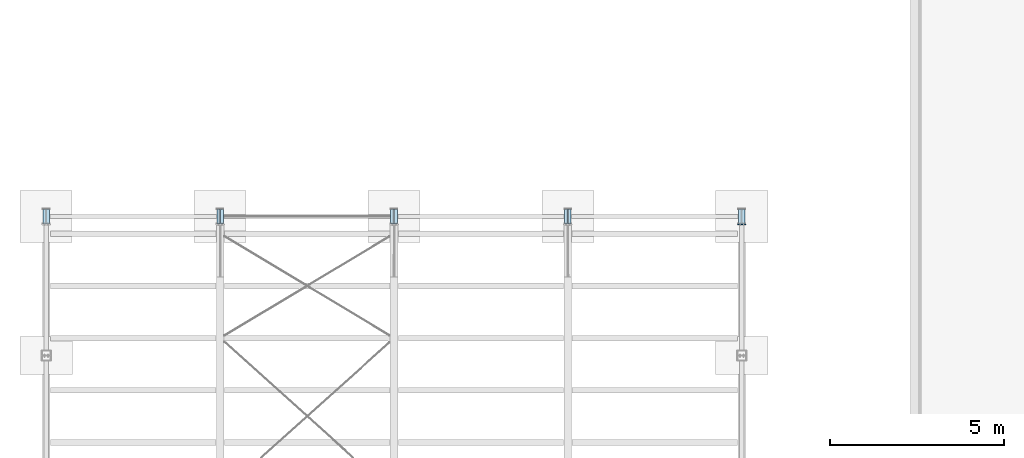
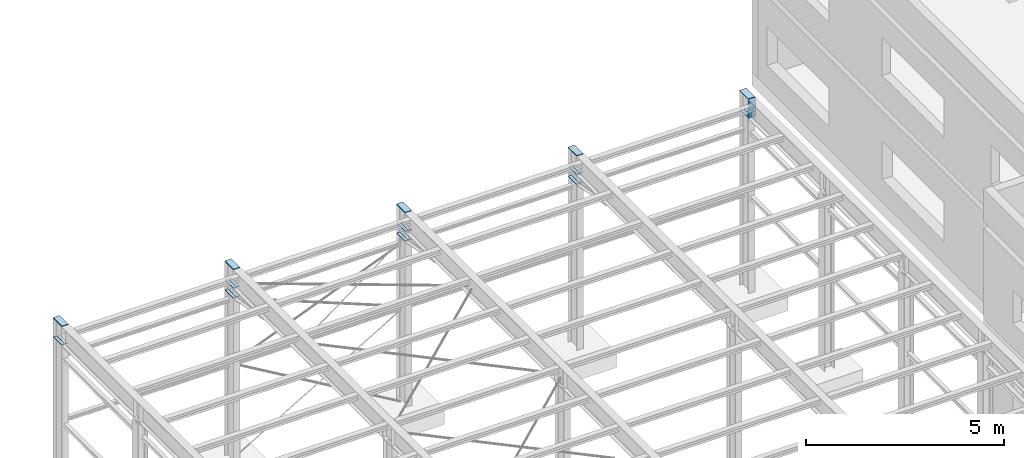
# Not in any storey, part 11 of 50: 22 plates, 38 openings.
"""IFC4 model written with IfcOpenShell, lengths in metres."""

from ifc_helpers import new_model, entity, si_unit, converted_unit, derived_unit, direction, frame, origin, origin_with_axes, origin_2d_with_axis, place, context, project, spatial, polyline, circle, outline, extrude, material, layer, layer_set, element, save


model = new_model("IFC4")

# Units and contexts
model_context = context("Model", 3, precision=1e-05, world=origin(), true_north=direction((6.123233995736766e-17, 1.0)))
ifc_project = project(units=[si_unit("LENGTHUNIT", "METRE"), si_unit("AREAUNIT", "SQUARE_METRE"), converted_unit("PLANEANGLEUNIT", "DEGREE", entity("IfcPlaneAngleMeasure", 0.017453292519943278), si_unit("PLANEANGLEUNIT", "RADIAN"), dimensions=[0, 0, 0, 0, 0, 0, 0]), si_unit("VOLUMEUNIT", "CUBIC_METRE"), derived_unit("THERMALTRANSMITTANCEUNIT", [(si_unit("MASSUNIT", "GRAM", prefix="KILO"), 1), (si_unit("THERMODYNAMICTEMPERATUREUNIT", "KELVIN"), -1), (si_unit("TIMEUNIT", "SECOND"), -3)])], contexts=[model_context])

# Site
site_placement = place(None, origin())
site = spatial("IfcSite", under=ifc_project, at=site_placement, Name="Default", CompositionType="ELEMENT")

# Plate
ifc_material = material(Name="Dachdeckung - Blechdach")
ifc_layer_1 = layer(ifc_material, 20.0)
ifc_layer_set_1 = layer_set([ifc_layer_1], Name="Dachdeckung - Blechdach")
plate_1_placement = place(site_placement, frame((13.095144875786, 17.70976753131, 5.98), z_axis=(0.0, 0.0, 1.0), x_axis=(1.0, 0.0, 0.0)))
element("IfcPlate", 1, at=plate_1_placement, inside=site, material=ifc_layer_set_1, Name="Coverplate", ObjectType="Coverplate", context=model_context, shape_type="SweptSolid", body=[
    extrude(outline(polyline([(0.0, 0.0), (0.19, 0.0), (0.19, 0.44), (0.0, 0.44), (0.0, 0.0)])), origin_with_axes(), (0.0, 0.0, 1.0), 0.02),
])

# Plate, openings
ifc_layer_2 = layer(ifc_material, 15.0)
ifc_layer_set_2 = layer_set([ifc_layer_2], Name="Dachdeckung - Blechdach")
plate_2_placement = place(site_placement, frame((13.284844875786, 17.72036753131, 5.415), z_axis=(0.0, 0.0, -1.0), x_axis=(-1.0, 0.0, 0.0)))
plate_2 = element("IfcPlate", 2, at=plate_2_placement, inside=site, material=ifc_layer_set_2, Name="Stiffener#2", ObjectType="Stiffener#2", context=model_context, shape_type="SweptSolid", body=[
    extrude(outline(polyline([(0.0, 0.0), (0.09, 0.0), (0.09, 0.4188), (0.0, 0.4188), (0.0, 0.0)])), origin_with_axes(), (0.0, 0.0, 1.0), 0.015),
])
opening_1_placement = place(plate_2_placement, frame((0.0, 0.0, -1e-05), z_axis=(0.0, 0.0, 1.0), x_axis=(1.0, 0.0, 0.0)))
element("IfcOpeningElement", 3, at=opening_1_placement, cuts=plate_2, ObjectType="Opening", context=model_context, shape_type="SweptSolid", body=[
    extrude(outline(polyline([(0.09, 0.4188), (0.06, 0.4188), (0.09, 0.38880000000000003), (0.09, 0.4188)])), origin(), (0.0, 0.0, 1.0), 0.01502),
])
opening_2_placement = place(plate_2_placement, frame((0.0, 0.0, -1e-05), z_axis=(0.0, 0.0, 1.0), x_axis=(1.0, 0.0, 0.0)))
element("IfcOpeningElement", 4, at=opening_2_placement, cuts=plate_2, ObjectType="Opening", context=model_context, shape_type="SweptSolid", body=[
    extrude(outline(polyline([(0.09, 0.0), (0.09, 0.03), (0.06, 0.0), (0.09, 0.0)])), origin(), (0.0, 0.0, 1.0), 0.01502),
])

plate_3_placement = place(site_placement, frame((13.185444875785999, 17.72036753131, 5.415), z_axis=(0.0, 0.0, -1.0), x_axis=(-1.0, 0.0, 0.0)))
plate_3 = element("IfcPlate", 5, at=plate_3_placement, inside=site, material=ifc_layer_set_2, Name="Stiffener#2", ObjectType="Stiffener#2", context=model_context, shape_type="SweptSolid", body=[
    extrude(outline(polyline([(0.0, 0.0), (0.09, 0.0), (0.09, 0.4188), (0.0, 0.4188), (0.0, 0.0)])), origin_with_axes(), (0.0, 0.0, 1.0), 0.015),
])
opening_3_placement = place(plate_3_placement, frame((0.0, 0.0, -1e-05), z_axis=(0.0, 0.0, 1.0), x_axis=(1.0, 0.0, 0.0)))
element("IfcOpeningElement", 6, at=opening_3_placement, cuts=plate_3, ObjectType="Opening", context=model_context, shape_type="SweptSolid", body=[
    extrude(outline(polyline([(0.0, 0.4188), (0.0, 0.38880000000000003), (0.03, 0.4188), (0.0, 0.4188)])), origin(), (0.0, 0.0, 1.0), 0.01502),
])
opening_4_placement = place(plate_3_placement, frame((0.0, 0.0, -1e-05), z_axis=(0.0, 0.0, 1.0), x_axis=(1.0, 0.0, 0.0)))
element("IfcOpeningElement", 7, at=opening_4_placement, cuts=plate_3, ObjectType="Opening", context=model_context, shape_type="SweptSolid", body=[
    extrude(outline(polyline([(0.0, 0.0), (0.03, 0.0), (0.0, 0.03), (0.0, 0.0)])), origin(), (0.0, 0.0, 1.0), 0.01502),
])

plate_4_placement = place(site_placement, frame((13.284844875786, 17.72036753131, 5.115), z_axis=(0.0, 0.0, -1.0), x_axis=(-1.0, 0.0, 0.0)))
plate_4 = element("IfcPlate", 8, at=plate_4_placement, inside=site, material=ifc_layer_set_2, Name="Stiffener#3", ObjectType="Stiffener#3", context=model_context, shape_type="SweptSolid", body=[
    extrude(outline(polyline([(0.0, 0.0), (0.09, 0.0), (0.09, 0.4188), (0.0, 0.4188), (0.0, 0.0)])), origin_with_axes(), (0.0, 0.0, 1.0), 0.015),
])
opening_5_placement = place(plate_4_placement, frame((0.0, 0.0, -1e-05), z_axis=(0.0, 0.0, 1.0), x_axis=(1.0, 0.0, 0.0)))
element("IfcOpeningElement", 9, at=opening_5_placement, cuts=plate_4, ObjectType="Opening", context=model_context, shape_type="SweptSolid", body=[
    extrude(outline(polyline([(0.09, 0.4188), (0.06, 0.4188), (0.09, 0.38880000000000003), (0.09, 0.4188)])), origin(), (0.0, 0.0, 1.0), 0.01502),
])
opening_6_placement = place(plate_4_placement, frame((0.0, 0.0, -1e-05), z_axis=(0.0, 0.0, 1.0), x_axis=(1.0, 0.0, 0.0)))
element("IfcOpeningElement", 10, at=opening_6_placement, cuts=plate_4, ObjectType="Opening", context=model_context, shape_type="SweptSolid", body=[
    extrude(outline(polyline([(0.09, 0.0), (0.09, 0.03), (0.06, 0.0), (0.09, 0.0)])), origin(), (0.0, 0.0, 1.0), 0.01502),
])

plate_5_placement = place(site_placement, frame((13.185444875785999, 17.72036753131, 5.115), z_axis=(0.0, 0.0, -1.0), x_axis=(-1.0, 0.0, 0.0)))
plate_5 = element("IfcPlate", 11, at=plate_5_placement, inside=site, material=ifc_layer_set_2, Name="Stiffener#14", ObjectType="Stiffener#14", context=model_context, shape_type="SweptSolid", body=[
    extrude(outline(polyline([(0.0, 0.0), (0.09, 0.0), (0.09, 0.4188), (0.0, 0.4188), (0.0, 0.0)])), origin_with_axes(), (0.0, 0.0, 1.0), 0.015),
])
opening_7_placement = place(plate_5_placement, frame((0.0, 0.0, -1e-05), z_axis=(0.0, 0.0, 1.0), x_axis=(1.0, 0.0, 0.0)))
element("IfcOpeningElement", 12, at=opening_7_placement, cuts=plate_5, ObjectType="Opening", context=model_context, shape_type="SweptSolid", body=[
    extrude(outline(polyline([(0.0, 0.4188), (0.0, 0.38880000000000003), (0.03, 0.4188), (0.0, 0.4188)])), origin(), (0.0, 0.0, 1.0), 0.01502),
])
opening_8_placement = place(plate_5_placement, frame((0.0, 0.0, -1e-05), z_axis=(0.0, 0.0, 1.0), x_axis=(1.0, 0.0, 0.0)))
element("IfcOpeningElement", 13, at=opening_8_placement, cuts=plate_5, ObjectType="Opening", context=model_context, shape_type="SweptSolid", body=[
    extrude(outline(polyline([(0.0, 0.0), (0.03, 0.0), (0.0, 0.03), (0.0, 0.0)])), origin(), (0.0, 0.0, 1.0), 0.01502),
])

# Plate
plate_6_placement = place(site_placement, frame((8.095144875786, 17.70976753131, 5.98), z_axis=(0.0, 0.0, 1.0), x_axis=(1.0, 0.0, 0.0)))
element("IfcPlate", 14, at=plate_6_placement, inside=site, material=ifc_layer_set_1, Name="Coverplate", ObjectType="Coverplate", context=model_context, shape_type="SweptSolid", body=[
    extrude(outline(polyline([(0.0, 0.0), (0.19, 0.0), (0.19, 0.44), (0.0, 0.44), (0.0, 0.0)])), origin_with_axes(), (0.0, 0.0, 1.0), 0.02),
])

# Plate, openings
plate_7_placement = place(site_placement, frame((8.284844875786, 17.72036753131, 5.415), z_axis=(0.0, 0.0, -1.0), x_axis=(-1.0, 0.0, 0.0)))
plate_7 = element("IfcPlate", 15, at=plate_7_placement, inside=site, material=ifc_layer_set_2, Name="Stiffener#2", ObjectType="Stiffener#2", context=model_context, shape_type="SweptSolid", body=[
    extrude(outline(polyline([(0.0, 0.0), (0.09, 0.0), (0.09, 0.4188), (0.0, 0.4188), (0.0, 0.0)])), origin_with_axes(), (0.0, 0.0, 1.0), 0.015),
])
opening_9_placement = place(plate_7_placement, frame((0.0, 0.0, -1e-05), z_axis=(0.0, 0.0, 1.0), x_axis=(1.0, 0.0, 0.0)))
element("IfcOpeningElement", 16, at=opening_9_placement, cuts=plate_7, ObjectType="Opening", context=model_context, shape_type="SweptSolid", body=[
    extrude(outline(polyline([(0.09, 0.4188), (0.06, 0.4188), (0.09, 0.38880000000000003), (0.09, 0.4188)])), origin(), (0.0, 0.0, 1.0), 0.01502),
])
opening_10_placement = place(plate_7_placement, frame((0.0, 0.0, -1e-05), z_axis=(0.0, 0.0, 1.0), x_axis=(1.0, 0.0, 0.0)))
element("IfcOpeningElement", 17, at=opening_10_placement, cuts=plate_7, ObjectType="Opening", context=model_context, shape_type="SweptSolid", body=[
    extrude(outline(polyline([(0.09, 0.0), (0.09, 0.03), (0.06, 0.0), (0.09, 0.0)])), origin(), (0.0, 0.0, 1.0), 0.01502),
])

plate_8_placement = place(site_placement, frame((8.185444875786, 17.72036753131, 5.415), z_axis=(0.0, 0.0, -1.0), x_axis=(-1.0, 0.0, 0.0)))
plate_8 = element("IfcPlate", 18, at=plate_8_placement, inside=site, material=ifc_layer_set_2, Name="Stiffener#2", ObjectType="Stiffener#2", context=model_context, shape_type="SweptSolid", body=[
    extrude(outline(polyline([(0.0, 0.0), (0.09, 0.0), (0.09, 0.4188), (0.0, 0.4188), (0.0, 0.0)])), origin_with_axes(), (0.0, 0.0, 1.0), 0.015),
])
opening_11_placement = place(plate_8_placement, frame((0.0, 0.0, -1e-05), z_axis=(0.0, 0.0, 1.0), x_axis=(1.0, 0.0, 0.0)))
element("IfcOpeningElement", 19, at=opening_11_placement, cuts=plate_8, ObjectType="Opening", context=model_context, shape_type="SweptSolid", body=[
    extrude(outline(polyline([(0.0, 0.4188), (0.0, 0.38880000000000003), (0.03, 0.4188), (0.0, 0.4188)])), origin(), (0.0, 0.0, 1.0), 0.01502),
])
opening_12_placement = place(plate_8_placement, frame((0.0, 0.0, -1e-05), z_axis=(0.0, 0.0, 1.0), x_axis=(1.0, 0.0, 0.0)))
element("IfcOpeningElement", 20, at=opening_12_placement, cuts=plate_8, ObjectType="Opening", context=model_context, shape_type="SweptSolid", body=[
    extrude(outline(polyline([(0.0, 0.0), (0.03, 0.0), (0.0, 0.03), (0.0, 0.0)])), origin(), (0.0, 0.0, 1.0), 0.01502),
])

plate_9_placement = place(site_placement, frame((8.284844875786, 17.72036753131, 5.115), z_axis=(0.0, 0.0, -1.0), x_axis=(-1.0, 0.0, 0.0)))
plate_9 = element("IfcPlate", 21, at=plate_9_placement, inside=site, material=ifc_layer_set_2, Name="Stiffener#3", ObjectType="Stiffener#3", context=model_context, shape_type="SweptSolid", body=[
    extrude(outline(polyline([(0.0, 0.0), (0.09, 0.0), (0.09, 0.4188), (0.0, 0.4188), (0.0, 0.0)])), origin_with_axes(), (0.0, 0.0, 1.0), 0.015),
])
opening_13_placement = place(plate_9_placement, frame((0.0, 0.0, -1e-05), z_axis=(0.0, 0.0, 1.0), x_axis=(1.0, 0.0, 0.0)))
element("IfcOpeningElement", 22, at=opening_13_placement, cuts=plate_9, ObjectType="Opening", context=model_context, shape_type="SweptSolid", body=[
    extrude(outline(polyline([(0.09, 0.4188), (0.06, 0.4188), (0.09, 0.38880000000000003), (0.09, 0.4188)])), origin(), (0.0, 0.0, 1.0), 0.01502),
])
opening_14_placement = place(plate_9_placement, frame((0.0, 0.0, -1e-05), z_axis=(0.0, 0.0, 1.0), x_axis=(1.0, 0.0, 0.0)))
element("IfcOpeningElement", 23, at=opening_14_placement, cuts=plate_9, ObjectType="Opening", context=model_context, shape_type="SweptSolid", body=[
    extrude(outline(polyline([(0.09, 0.0), (0.09, 0.03), (0.06, 0.0), (0.09, 0.0)])), origin(), (0.0, 0.0, 1.0), 0.01502),
])

plate_10_placement = place(site_placement, frame((8.185444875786, 17.72036753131, 5.115), z_axis=(0.0, 0.0, -1.0), x_axis=(-1.0, 0.0, 0.0)))
plate_10 = element("IfcPlate", 24, at=plate_10_placement, inside=site, material=ifc_layer_set_2, Name="Stiffener#14", ObjectType="Stiffener#14", context=model_context, shape_type="SweptSolid", body=[
    extrude(outline(polyline([(0.0, 0.0), (0.09, 0.0), (0.09, 0.4188), (0.0, 0.4188), (0.0, 0.0)])), origin_with_axes(), (0.0, 0.0, 1.0), 0.015),
])
opening_15_placement = place(plate_10_placement, frame((0.0, 0.0, -1e-05), z_axis=(0.0, 0.0, 1.0), x_axis=(1.0, 0.0, 0.0)))
element("IfcOpeningElement", 25, at=opening_15_placement, cuts=plate_10, ObjectType="Opening", context=model_context, shape_type="SweptSolid", body=[
    extrude(outline(polyline([(0.0, 0.4188), (0.0, 0.38880000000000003), (0.03, 0.4188), (0.0, 0.4188)])), origin(), (0.0, 0.0, 1.0), 0.01502),
])
opening_16_placement = place(plate_10_placement, frame((0.0, 0.0, -1e-05), z_axis=(0.0, 0.0, 1.0), x_axis=(1.0, 0.0, 0.0)))
element("IfcOpeningElement", 26, at=opening_16_placement, cuts=plate_10, ObjectType="Opening", context=model_context, shape_type="SweptSolid", body=[
    extrude(outline(polyline([(0.0, 0.0), (0.03, 0.0), (0.0, 0.03), (0.0, 0.0)])), origin(), (0.0, 0.0, 1.0), 0.01502),
])

# Plate
plate_11_placement = place(site_placement, frame((18.095144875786, 17.70976753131, 5.98), z_axis=(0.0, 0.0, 1.0), x_axis=(1.0, 0.0, 0.0)))
element("IfcPlate", 27, at=plate_11_placement, inside=site, material=ifc_layer_set_1, Name="Coverplate", ObjectType="Coverplate", context=model_context, shape_type="SweptSolid", body=[
    extrude(outline(polyline([(0.0, 0.0), (0.19, 0.0), (0.19, 0.44), (0.0, 0.44), (0.0, 0.0)])), origin_with_axes(), (0.0, 0.0, 1.0), 0.02),
])

# Plate, openings
plate_12_placement = place(site_placement, frame((18.284844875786, 17.72036753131, 5.415), z_axis=(0.0, 0.0, -1.0), x_axis=(-1.0, 0.0, 0.0)))
plate_12 = element("IfcPlate", 28, at=plate_12_placement, inside=site, material=ifc_layer_set_2, Name="Stiffener#2", ObjectType="Stiffener#2", context=model_context, shape_type="SweptSolid", body=[
    extrude(outline(polyline([(0.0, 0.0), (0.09, 0.0), (0.09, 0.4188), (0.0, 0.4188), (0.0, 0.0)])), origin_with_axes(), (0.0, 0.0, 1.0), 0.015),
])
opening_17_placement = place(plate_12_placement, frame((0.0, 0.0, -1e-05), z_axis=(0.0, 0.0, 1.0), x_axis=(1.0, 0.0, 0.0)))
element("IfcOpeningElement", 29, at=opening_17_placement, cuts=plate_12, ObjectType="Opening", context=model_context, shape_type="SweptSolid", body=[
    extrude(outline(polyline([(0.09, 0.4188), (0.06, 0.4188), (0.09, 0.38880000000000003), (0.09, 0.4188)])), origin(), (0.0, 0.0, 1.0), 0.01502),
])
opening_18_placement = place(plate_12_placement, frame((0.0, 0.0, -1e-05), z_axis=(0.0, 0.0, 1.0), x_axis=(1.0, 0.0, 0.0)))
element("IfcOpeningElement", 30, at=opening_18_placement, cuts=plate_12, ObjectType="Opening", context=model_context, shape_type="SweptSolid", body=[
    extrude(outline(polyline([(0.09, 0.0), (0.09, 0.03), (0.06, 0.0), (0.09, 0.0)])), origin(), (0.0, 0.0, 1.0), 0.01502),
])

plate_13_placement = place(site_placement, frame((18.185444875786, 17.72036753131, 5.415), z_axis=(0.0, 0.0, -1.0), x_axis=(-1.0, 0.0, 0.0)))
plate_13 = element("IfcPlate", 31, at=plate_13_placement, inside=site, material=ifc_layer_set_2, Name="Stiffener#2", ObjectType="Stiffener#2", context=model_context, shape_type="SweptSolid", body=[
    extrude(outline(polyline([(0.0, 0.0), (0.09, 0.0), (0.09, 0.4188), (0.0, 0.4188), (0.0, 0.0)])), origin_with_axes(), (0.0, 0.0, 1.0), 0.015),
])
opening_19_placement = place(plate_13_placement, frame((0.0, 0.0, -1e-05), z_axis=(0.0, 0.0, 1.0), x_axis=(1.0, 0.0, 0.0)))
element("IfcOpeningElement", 32, at=opening_19_placement, cuts=plate_13, ObjectType="Opening", context=model_context, shape_type="SweptSolid", body=[
    extrude(outline(polyline([(0.0, 0.4188), (0.0, 0.38880000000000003), (0.03, 0.4188), (0.0, 0.4188)])), origin(), (0.0, 0.0, 1.0), 0.01502),
])
opening_20_placement = place(plate_13_placement, frame((0.0, 0.0, -1e-05), z_axis=(0.0, 0.0, 1.0), x_axis=(1.0, 0.0, 0.0)))
element("IfcOpeningElement", 33, at=opening_20_placement, cuts=plate_13, ObjectType="Opening", context=model_context, shape_type="SweptSolid", body=[
    extrude(outline(polyline([(0.0, 0.0), (0.03, 0.0), (0.0, 0.03), (0.0, 0.0)])), origin(), (0.0, 0.0, 1.0), 0.01502),
])

plate_14_placement = place(site_placement, frame((18.284844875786, 17.72036753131, 5.115), z_axis=(0.0, 0.0, -1.0), x_axis=(-1.0, 0.0, 0.0)))
plate_14 = element("IfcPlate", 34, at=plate_14_placement, inside=site, material=ifc_layer_set_2, Name="Stiffener#3", ObjectType="Stiffener#3", context=model_context, shape_type="SweptSolid", body=[
    extrude(outline(polyline([(0.0, 0.0), (0.09, 0.0), (0.09, 0.4188), (0.0, 0.4188), (0.0, 0.0)])), origin_with_axes(), (0.0, 0.0, 1.0), 0.015),
])
opening_21_placement = place(plate_14_placement, frame((0.0, 0.0, -1e-05), z_axis=(0.0, 0.0, 1.0), x_axis=(1.0, 0.0, 0.0)))
element("IfcOpeningElement", 35, at=opening_21_placement, cuts=plate_14, ObjectType="Opening", context=model_context, shape_type="SweptSolid", body=[
    extrude(outline(polyline([(0.09, 0.4188), (0.06, 0.4188), (0.09, 0.38880000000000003), (0.09, 0.4188)])), origin(), (0.0, 0.0, 1.0), 0.01502),
])
opening_22_placement = place(plate_14_placement, frame((0.0, 0.0, -1e-05), z_axis=(0.0, 0.0, 1.0), x_axis=(1.0, 0.0, 0.0)))
element("IfcOpeningElement", 36, at=opening_22_placement, cuts=plate_14, ObjectType="Opening", context=model_context, shape_type="SweptSolid", body=[
    extrude(outline(polyline([(0.09, 0.0), (0.09, 0.03), (0.06, 0.0), (0.09, 0.0)])), origin(), (0.0, 0.0, 1.0), 0.01502),
])

plate_15_placement = place(site_placement, frame((18.185444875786, 17.72036753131, 5.115), z_axis=(0.0, 0.0, -1.0), x_axis=(-1.0, 0.0, 0.0)))
plate_15 = element("IfcPlate", 37, at=plate_15_placement, inside=site, material=ifc_layer_set_2, Name="Stiffener#14", ObjectType="Stiffener#14", context=model_context, shape_type="SweptSolid", body=[
    extrude(outline(polyline([(0.0, 0.0), (0.09, 0.0), (0.09, 0.4188), (0.0, 0.4188), (0.0, 0.0)])), origin_with_axes(), (0.0, 0.0, 1.0), 0.015),
])
opening_23_placement = place(plate_15_placement, frame((0.0, 0.0, -1e-05), z_axis=(0.0, 0.0, 1.0), x_axis=(1.0, 0.0, 0.0)))
element("IfcOpeningElement", 38, at=opening_23_placement, cuts=plate_15, ObjectType="Opening", context=model_context, shape_type="SweptSolid", body=[
    extrude(outline(polyline([(0.0, 0.4188), (0.0, 0.38880000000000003), (0.03, 0.4188), (0.0, 0.4188)])), origin(), (0.0, 0.0, 1.0), 0.01502),
])
opening_24_placement = place(plate_15_placement, frame((0.0, 0.0, -1e-05), z_axis=(0.0, 0.0, 1.0), x_axis=(1.0, 0.0, 0.0)))
element("IfcOpeningElement", 39, at=opening_24_placement, cuts=plate_15, ObjectType="Opening", context=model_context, shape_type="SweptSolid", body=[
    extrude(outline(polyline([(0.0, 0.0), (0.03, 0.0), (0.0, 0.03), (0.0, 0.0)])), origin(), (0.0, 0.0, 1.0), 0.01502),
])

# Plate
plate_16_placement = place(site_placement, frame((23.095144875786, 17.70976753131, 5.98), z_axis=(0.0, 0.0, 1.0), x_axis=(1.0, 0.0, 0.0)))
element("IfcPlate", 40, at=plate_16_placement, inside=site, material=ifc_layer_set_1, Name="Coverplate", ObjectType="Coverplate", context=model_context, shape_type="SweptSolid", body=[
    extrude(outline(polyline([(0.0, 0.0), (0.19, 0.0), (0.19, 0.44), (0.0, 0.44), (0.0, 0.0)])), origin_with_axes(), (0.0, 0.0, 1.0), 0.02),
])

# Plate, openings
plate_17_placement = place(site_placement, frame((23.075144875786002, 17.68976753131, 5.995), z_axis=(0.0, 1.0, 0.0), x_axis=(1.0, 0.0, 0.0)))
plate_17 = element("IfcPlate", 41, at=plate_17_placement, inside=site, material=ifc_layer_set_2, Name="Endplate", ObjectType="Endplate", context=model_context, shape_type="SweptSolid", body=[
    extrude(outline(polyline([(0.0, 0.0), (0.23, 0.0), (0.23, 0.6), (0.0, 0.6), (0.0, 0.0)])), origin_with_axes(), (0.0, 0.0, 1.0), 0.015),
])
opening_25_placement = place(plate_17_placement, frame((0.065, 0.1, 0.0155), z_axis=(0.0, 0.0, -1.0), x_axis=(1.0, 0.0, 0.0)))
element("IfcOpeningElement", 42, at=opening_25_placement, cuts=plate_17, ObjectType="Opening", context=model_context, shape_type="SweptSolid", body=[
    extrude(circle(Radius=0.009000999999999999, at=origin_2d_with_axis()), origin(), (0.0, 0.0, 1.0), 0.016),
])
opening_26_placement = place(plate_17_placement, frame((0.165, 0.1, 0.0155), z_axis=(0.0, 0.0, -1.0), x_axis=(1.0, 0.0, 0.0)))
element("IfcOpeningElement", 43, at=opening_26_placement, cuts=plate_17, ObjectType="Opening", context=model_context, shape_type="SweptSolid", body=[
    extrude(circle(Radius=0.009000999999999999, at=origin_2d_with_axis()), origin(), (0.0, 0.0, 1.0), 0.016),
])
opening_27_placement = place(plate_17_placement, frame((0.065, 0.55, 0.0155), z_axis=(0.0, 0.0, -1.0), x_axis=(1.0, 0.0, 0.0)))
element("IfcOpeningElement", 44, at=opening_27_placement, cuts=plate_17, ObjectType="Opening", context=model_context, shape_type="SweptSolid", body=[
    extrude(circle(Radius=0.009000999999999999, at=origin_2d_with_axis()), origin(), (0.0, 0.0, 1.0), 0.016),
])
opening_28_placement = place(plate_17_placement, frame((0.065, 0.2, 0.0155), z_axis=(0.0, 0.0, -1.0), x_axis=(1.0, 0.0, 0.0)))
element("IfcOpeningElement", 45, at=opening_28_placement, cuts=plate_17, ObjectType="Opening", context=model_context, shape_type="SweptSolid", body=[
    extrude(circle(Radius=0.009000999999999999, at=origin_2d_with_axis()), origin(), (0.0, 0.0, 1.0), 0.016),
])
opening_29_placement = place(plate_17_placement, frame((0.165, 0.55, 0.0155), z_axis=(0.0, 0.0, -1.0), x_axis=(1.0, 0.0, 0.0)))
element("IfcOpeningElement", 46, at=opening_29_placement, cuts=plate_17, ObjectType="Opening", context=model_context, shape_type="SweptSolid", body=[
    extrude(circle(Radius=0.009000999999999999, at=origin_2d_with_axis()), origin(), (0.0, 0.0, 1.0), 0.016),
])
opening_30_placement = place(plate_17_placement, frame((0.165, 0.2, 0.0155), z_axis=(0.0, 0.0, -1.0), x_axis=(1.0, 0.0, 0.0)))
element("IfcOpeningElement", 47, at=opening_30_placement, cuts=plate_17, ObjectType="Opening", context=model_context, shape_type="SweptSolid", body=[
    extrude(circle(Radius=0.009000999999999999, at=origin_2d_with_axis()), origin(), (0.0, 0.0, 1.0), 0.016),
])

plate_18_placement = place(site_placement, frame((23.284844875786, 17.72036753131, 5.415), z_axis=(0.0, 0.0, -1.0), x_axis=(-1.0, 0.0, 0.0)))
plate_18 = element("IfcPlate", 48, at=plate_18_placement, inside=site, material=ifc_layer_set_2, Name="Stiffener#2", ObjectType="Stiffener#2", context=model_context, shape_type="SweptSolid", body=[
    extrude(outline(polyline([(0.0, 0.0), (0.09, 0.0), (0.09, 0.4188), (0.0, 0.4188), (0.0, 0.0)])), origin_with_axes(), (0.0, 0.0, 1.0), 0.015),
])
opening_31_placement = place(plate_18_placement, frame((0.0, 0.0, -1e-05), z_axis=(0.0, 0.0, 1.0), x_axis=(1.0, 0.0, 0.0)))
element("IfcOpeningElement", 49, at=opening_31_placement, cuts=plate_18, ObjectType="Opening", context=model_context, shape_type="SweptSolid", body=[
    extrude(outline(polyline([(0.09, 0.4188), (0.06, 0.4188), (0.09, 0.38880000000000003), (0.09, 0.4188)])), origin(), (0.0, 0.0, 1.0), 0.01502),
])
opening_32_placement = place(plate_18_placement, frame((0.0, 0.0, -1e-05), z_axis=(0.0, 0.0, 1.0), x_axis=(1.0, 0.0, 0.0)))
element("IfcOpeningElement", 50, at=opening_32_placement, cuts=plate_18, ObjectType="Opening", context=model_context, shape_type="SweptSolid", body=[
    extrude(outline(polyline([(0.09, 0.0), (0.09, 0.03), (0.06, 0.0), (0.09, 0.0)])), origin(), (0.0, 0.0, 1.0), 0.01502),
])

plate_19_placement = place(site_placement, frame((23.185444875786, 17.72036753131, 5.415), z_axis=(0.0, 0.0, -1.0), x_axis=(-1.0, 0.0, 0.0)))
plate_19 = element("IfcPlate", 51, at=plate_19_placement, inside=site, material=ifc_layer_set_2, Name="Stiffener#2", ObjectType="Stiffener#2", context=model_context, shape_type="SweptSolid", body=[
    extrude(outline(polyline([(0.0, 0.0), (0.09, 0.0), (0.09, 0.4188), (0.0, 0.4188), (0.0, 0.0)])), origin_with_axes(), (0.0, 0.0, 1.0), 0.015),
])
opening_33_placement = place(plate_19_placement, frame((0.0, 0.0, -1e-05), z_axis=(0.0, 0.0, 1.0), x_axis=(1.0, 0.0, 0.0)))
element("IfcOpeningElement", 52, at=opening_33_placement, cuts=plate_19, ObjectType="Opening", context=model_context, shape_type="SweptSolid", body=[
    extrude(outline(polyline([(0.0, 0.4188), (0.0, 0.38880000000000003), (0.03, 0.4188), (0.0, 0.4188)])), origin(), (0.0, 0.0, 1.0), 0.01502),
])
opening_34_placement = place(plate_19_placement, frame((0.0, 0.0, -1e-05), z_axis=(0.0, 0.0, 1.0), x_axis=(1.0, 0.0, 0.0)))
element("IfcOpeningElement", 53, at=opening_34_placement, cuts=plate_19, ObjectType="Opening", context=model_context, shape_type="SweptSolid", body=[
    extrude(outline(polyline([(0.0, 0.0), (0.03, 0.0), (0.0, 0.03), (0.0, 0.0)])), origin(), (0.0, 0.0, 1.0), 0.01502),
])

# Plate
plate_20_placement = place(site_placement, frame((3.0951448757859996, 17.70976753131, 5.98), z_axis=(0.0, 0.0, 1.0), x_axis=(1.0, 0.0, 0.0)))
element("IfcPlate", 54, at=plate_20_placement, inside=site, material=ifc_layer_set_1, Name="Coverplate", ObjectType="Coverplate", context=model_context, shape_type="SweptSolid", body=[
    extrude(outline(polyline([(0.0, 0.0), (0.19, 0.0), (0.19, 0.44), (0.0, 0.44), (0.0, 0.0)])), origin_with_axes(), (0.0, 0.0, 1.0), 0.02),
])

# Plate, openings
plate_21_placement = place(site_placement, frame((3.2848448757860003, 17.72036753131, 5.415), z_axis=(0.0, 0.0, -1.0), x_axis=(-1.0, 0.0, 0.0)))
plate_21 = element("IfcPlate", 55, at=plate_21_placement, inside=site, material=ifc_layer_set_2, Name="Stiffener#2", ObjectType="Stiffener#2", context=model_context, shape_type="SweptSolid", body=[
    extrude(outline(polyline([(0.0, 0.0), (0.09, 0.0), (0.09, 0.4188), (0.0, 0.4188), (0.0, 0.0)])), origin_with_axes(), (0.0, 0.0, 1.0), 0.015),
])
opening_35_placement = place(plate_21_placement, frame((0.0, 0.0, -1e-05), z_axis=(0.0, 0.0, 1.0), x_axis=(1.0, 0.0, 0.0)))
element("IfcOpeningElement", 56, at=opening_35_placement, cuts=plate_21, ObjectType="Opening", context=model_context, shape_type="SweptSolid", body=[
    extrude(outline(polyline([(0.09, 0.4188), (0.06, 0.4188), (0.09, 0.38880000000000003), (0.09, 0.4188)])), origin(), (0.0, 0.0, 1.0), 0.01502),
])
opening_36_placement = place(plate_21_placement, frame((0.0, 0.0, -1e-05), z_axis=(0.0, 0.0, 1.0), x_axis=(1.0, 0.0, 0.0)))
element("IfcOpeningElement", 57, at=opening_36_placement, cuts=plate_21, ObjectType="Opening", context=model_context, shape_type="SweptSolid", body=[
    extrude(outline(polyline([(0.09, 0.0), (0.09, 0.03), (0.06, 0.0), (0.09, 0.0)])), origin(), (0.0, 0.0, 1.0), 0.01502),
])

plate_22_placement = place(site_placement, frame((3.185444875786, 17.72036753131, 5.415), z_axis=(0.0, 0.0, -1.0), x_axis=(-1.0, 0.0, 0.0)))
plate_22 = element("IfcPlate", 58, at=plate_22_placement, inside=site, material=ifc_layer_set_2, Name="Stiffener#2", ObjectType="Stiffener#2", context=model_context, shape_type="SweptSolid", body=[
    extrude(outline(polyline([(0.0, 0.0), (0.09, 0.0), (0.09, 0.4188), (0.0, 0.4188), (0.0, 0.0)])), origin_with_axes(), (0.0, 0.0, 1.0), 0.015),
])
opening_37_placement = place(plate_22_placement, frame((0.0, 0.0, -1e-05), z_axis=(0.0, 0.0, 1.0), x_axis=(1.0, 0.0, 0.0)))
element("IfcOpeningElement", 59, at=opening_37_placement, cuts=plate_22, ObjectType="Opening", context=model_context, shape_type="SweptSolid", body=[
    extrude(outline(polyline([(0.0, 0.4188), (0.0, 0.38880000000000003), (0.03, 0.4188), (0.0, 0.4188)])), origin(), (0.0, 0.0, 1.0), 0.01502),
])
opening_38_placement = place(plate_22_placement, frame((0.0, 0.0, -1e-05), z_axis=(0.0, 0.0, 1.0), x_axis=(1.0, 0.0, 0.0)))
element("IfcOpeningElement", 60, at=opening_38_placement, cuts=plate_22, ObjectType="Opening", context=model_context, shape_type="SweptSolid", body=[
    extrude(outline(polyline([(0.0, 0.0), (0.03, 0.0), (0.0, 0.03), (0.0, 0.0)])), origin(), (0.0, 0.0, 1.0), 0.01502),
])

save(model, "model.ifc")
